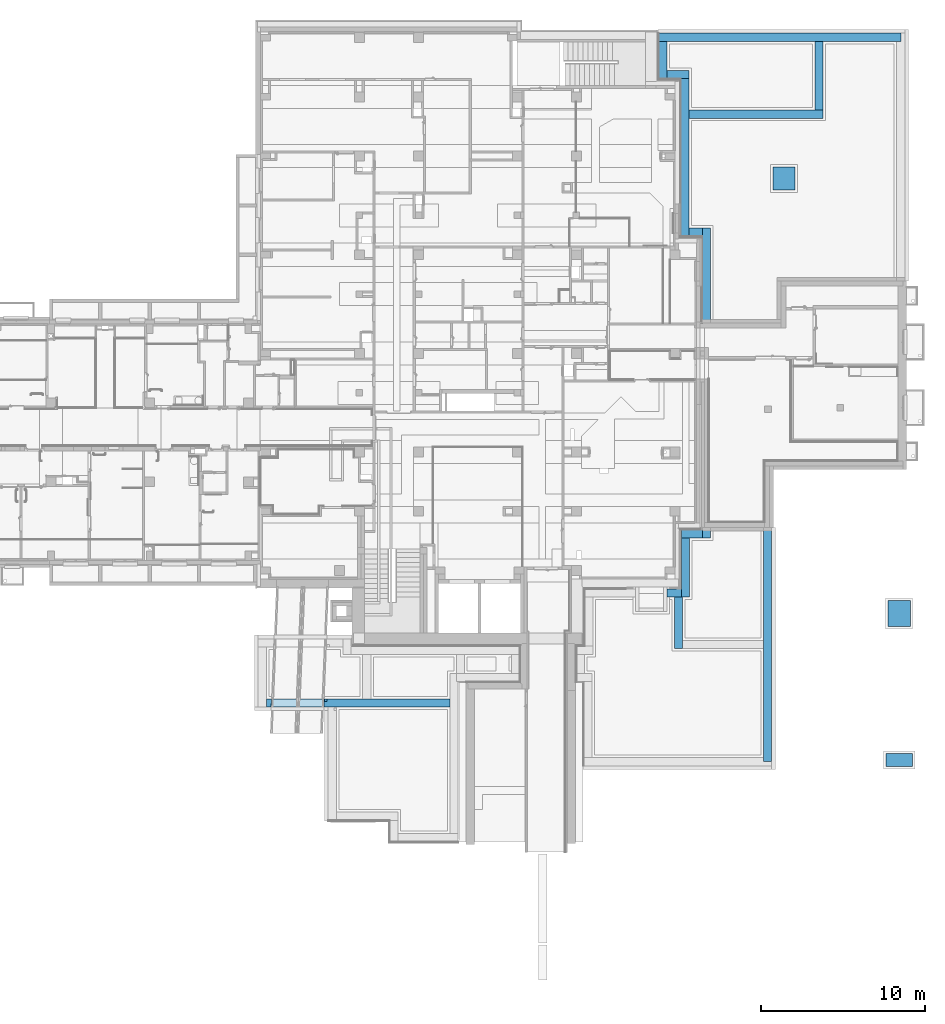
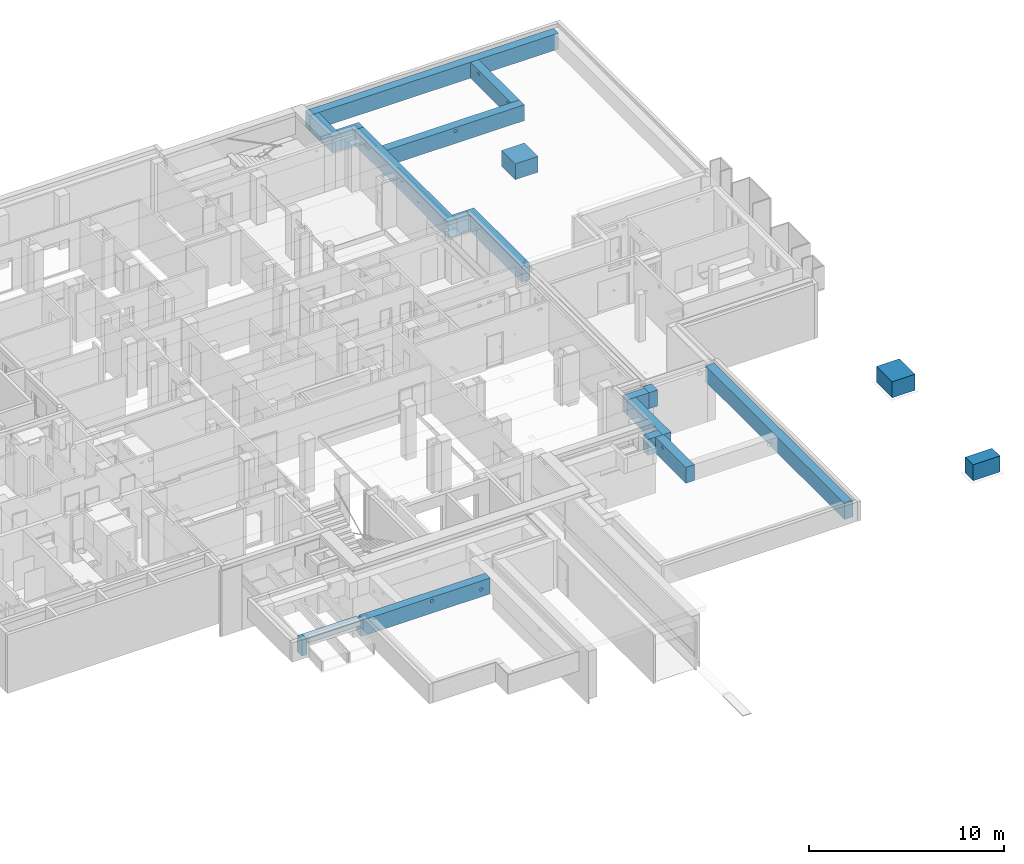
# One storey, part 2 of 84: 20 footings, 7 openings.
"""IFC4 building model written with IfcOpenShell, lengths in metres."""

from ifc_helpers import new_model, entity, si_unit, converted_unit, derived_unit, frame, frame_2d, origin, origin_with_axes, place, context, subcontext, project, spatial, polyline, rectangle, outline, extrude, faceted_brep, material, element, save


model = new_model("IFC4")

# Units and contexts
model_context = context("Model", 3, precision=1e-05, world=origin())
body_context = subcontext(model_context, "Body", "Model", "MODEL_VIEW")
ifc_project = project(units=[si_unit("LENGTHUNIT", "METRE"), si_unit("AREAUNIT", "SQUARE_METRE"), si_unit("VOLUMEUNIT", "CUBIC_METRE"), si_unit("MASSUNIT", "GRAM", prefix="KILO"), converted_unit("PLANEANGLEUNIT", "DEGREE", entity("IfcPlaneAngleMeasure", 0.0174532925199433), si_unit("PLANEANGLEUNIT", "RADIAN"), dimensions=[0, 0, 0, 0, 0, 0, 0]), derived_unit("THERMALTRANSMITTANCEUNIT", [(si_unit("POWERUNIT", "WATT"), 1), (si_unit("THERMODYNAMICTEMPERATUREUNIT", "KELVIN"), -1), (si_unit("LENGTHUNIT", "METRE"), -2)]), derived_unit("VOLUMETRICFLOWRATEUNIT", [(si_unit("LENGTHUNIT", "METRE"), 3), (converted_unit("TIMEUNIT", "hour", entity("IfcTimeMeasure", 3600.0), si_unit("TIMEUNIT", "SECOND"), dimensions=[0, 0, 1, 0, 0, 0, 0]), -1), (si_unit("LENGTHUNIT", "METRE"), -1)])], contexts=[model_context])

# Site, building, storey
site_placement = place(None, origin())
site = spatial("IfcSite", under=ifc_project, at=site_placement, Name="3. ASŘ", CompositionType="ELEMENT")
building_placement = place(site_placement, origin())
building = spatial("IfcBuilding", under=site, at=building_placement, Name="Pavilon C", CompositionType="ELEMENT")
storey_placement = place(building_placement, frame((0.0, 0.0, -3.3)))
storey = spatial("IfcBuildingStorey", under=building, at=storey_placement, Name="Půdorys 1.PP", CompositionType="ELEMENT", Elevation=-3.3)

# Footing
ifc_material_1 = material(Name="ZELEZOBETONOVÁ KCE")
footing_1_placement = place(storey_placement, frame((55.9, 23.15, 1.8)))
element("IfcFooting", 1, at=footing_1_placement, inside=storey, material=ifc_material_1, PredefinedType="PAD_FOOTING", context=body_context, shape_type="SweptSolid", body=[
    extrude(rectangle(XDim=1.4, YDim=1.35, at=frame_2d((-0.675, 0.7), x_axis=(0.0, 1.0))), frame((1.35, 0.0, 0.0), z_axis=(0.0, 0.0, 1.0), x_axis=(1.0, 0.0, 0.0)), (0.0, 0.0, 1.0), 1.0),
])

# Footing, openings
ifc_material_2 = material(Name="ZELEZOBETONOVÁ KCE")
footing_2_placement = place(storey_placement, frame((28.5972563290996, -8.30000000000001, 1.8)))
footing_2 = element("IfcFooting", 2, at=footing_2_placement, inside=storey, material=ifc_material_2, PredefinedType="STRIP_FOOTING", context=body_context, shape_type="Brep", body=[
    faceted_brep([(0.0207837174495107, 0.499999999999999, 0.0), (0.0, 0.0, 0.0), (7.65274367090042, 0.0, 0.0), (7.65274367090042, 0.499999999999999, 0.0), (0.0, 0.0, 1.0), (0.0207837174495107, 0.499999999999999, 1.0), (7.65274367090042, 0.499999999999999, 1.0), (7.65274367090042, 0.0, 1.0)], [[[0, 1, 2, 3]], [[4, 5, 6, 7]], [[1, 0, 5, 4]], [[2, 1, 4, 7]], [[3, 2, 7, 6]], [[0, 3, 6, 5]]], orient=[[False], [False], [False], [False], [False], [False]]),
])
opening_1_placement = place(footing_2_placement, frame((0.178011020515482, 0.499999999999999, 0.7), z_axis=(0.0, -1.0, 0.0), x_axis=(0.0, 0.0, 1.0)))
element("IfcOpeningElement", 3, at=opening_1_placement, cuts=footing_2, Name="Prostup stěnou", ObjectType="Opening", context=body_context, shape_type="SweptSolid", body=[
    extrude(outline(polyline([(0.0, 0.15), (0.3, 0.15), (0.3, 0.0), (0.0, 0.0), (0.0, 0.15)])), origin_with_axes(), (0.0, 0.0, 1.0), 0.15),
])
opening_2_placement = place(footing_2_placement, frame((4.10274367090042, 0.0, 0.68), z_axis=(0.0, 1.0, 0.0), x_axis=(0.0, 0.0, 1.0)))
element("IfcOpeningElement", 4, at=opening_2_placement, cuts=footing_2, Name="RAD", ObjectType="Opening", context=body_context, shape_type="SweptSolid", body=[
    extrude(outline(polyline([(0.1, 0.0), (0.0895471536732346, 0.000547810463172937), (0.0792088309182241, 0.00218523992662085), (0.0690983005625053, 0.00489434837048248), (0.05932633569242, 0.00864545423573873), (0.05, 0.0133974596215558), (0.0412214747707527, 0.0190983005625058), (0.0330869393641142, 0.0256855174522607), (0.0256855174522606, 0.0330869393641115), (0.0190983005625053, 0.0412214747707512), (0.0133974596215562, 0.05), (0.00864545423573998, 0.0593263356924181), (0.00489434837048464, 0.0690983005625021), (0.00218523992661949, 0.0792088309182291), (0.000547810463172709, 0.0895471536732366), (0.0, 0.1), (0.000547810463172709, 0.110452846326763), (0.00218523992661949, 0.120791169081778), (0.00489434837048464, 0.130901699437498), (0.00864545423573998, 0.140673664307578), (0.0133974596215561, 0.15), (0.0190983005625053, 0.158778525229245), (0.0256855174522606, 0.166913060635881), (0.0330869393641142, 0.174314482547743), (0.0412214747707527, 0.180901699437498), (0.05, 0.186602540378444), (0.05932633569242, 0.191354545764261), (0.0690983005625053, 0.195105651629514), (0.0792088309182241, 0.197814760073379), (0.0895471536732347, 0.199452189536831), (0.1, 0.2), (0.110452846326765, 0.199452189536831), (0.120791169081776, 0.197814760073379), (0.130901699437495, 0.195105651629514), (0.14067366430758, 0.191354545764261), (0.15, 0.186602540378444), (0.158778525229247, 0.180901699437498), (0.166913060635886, 0.174314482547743), (0.174314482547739, 0.166913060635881), (0.180901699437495, 0.158778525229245), (0.186602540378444, 0.15), (0.19135454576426, 0.140673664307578), (0.195105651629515, 0.130901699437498), (0.197814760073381, 0.120791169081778), (0.199452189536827, 0.110452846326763), (0.2, 0.1), (0.199452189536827, 0.0895471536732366), (0.197814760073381, 0.0792088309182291), (0.195105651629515, 0.0690983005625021), (0.19135454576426, 0.0593263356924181), (0.186602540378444, 0.05), (0.180901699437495, 0.0412214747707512), (0.174314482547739, 0.0330869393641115), (0.166913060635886, 0.0256855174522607), (0.158778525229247, 0.0190983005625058), (0.15, 0.0133974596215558), (0.14067366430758, 0.00864545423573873), (0.130901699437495, 0.00489434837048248), (0.120791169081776, 0.00218523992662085), (0.110452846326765, 0.000547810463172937), (0.1, 0.0)])), origin_with_axes(), (0.0, 0.0, 1.0), 0.499999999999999),
])
opening_3_placement = place(footing_2_placement, frame((7.02847960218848, 0.0, 0.37), z_axis=(0.0, 1.0, 0.0), x_axis=(0.0, 0.0, 1.0)))
element("IfcOpeningElement", 5, at=opening_3_placement, cuts=footing_2, Name="ZTI", ObjectType="Opening", context=body_context, shape_type="SweptSolid", body=[
    extrude(outline(polyline([(0.1, 0.0), (0.0895471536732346, 0.000547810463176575), (0.0792088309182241, 0.00218523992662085), (0.0690983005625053, 0.00489434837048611), (0.0593263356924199, 0.00864545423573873), (0.05, 0.0133974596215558), (0.0412214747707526, 0.0190983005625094), (0.0330869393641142, 0.025685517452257), (0.0256855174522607, 0.0330869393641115), (0.0190983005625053, 0.0412214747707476), (0.0133974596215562, 0.05), (0.00864545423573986, 0.0593263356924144), (0.00489434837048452, 0.0690983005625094), (0.00218523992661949, 0.0792088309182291), (0.000547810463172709, 0.0895471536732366), (0.0, 0.1), (0.000547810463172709, 0.110452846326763), (0.00218523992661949, 0.120791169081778), (0.00489434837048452, 0.130901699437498), (0.00864545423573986, 0.140673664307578), (0.0133974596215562, 0.15), (0.0190983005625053, 0.158778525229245), (0.0256855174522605, 0.166913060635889), (0.0330869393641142, 0.174314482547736), (0.0412214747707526, 0.180901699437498), (0.05, 0.186602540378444), (0.0593263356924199, 0.191354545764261), (0.0690983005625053, 0.195105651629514), (0.0792088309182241, 0.197814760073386), (0.0895471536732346, 0.199452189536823), (0.1, 0.2), (0.110452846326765, 0.199452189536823), (0.120791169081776, 0.197814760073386), (0.130901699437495, 0.195105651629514), (0.14067366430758, 0.191354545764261), (0.15, 0.186602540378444), (0.158778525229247, 0.180901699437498), (0.166913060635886, 0.174314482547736), (0.174314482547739, 0.166913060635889), (0.180901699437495, 0.158778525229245), (0.186602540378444, 0.15), (0.19135454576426, 0.140673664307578), (0.195105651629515, 0.130901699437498), (0.19781476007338, 0.120791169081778), (0.199452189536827, 0.110452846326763), (0.2, 0.1), (0.199452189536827, 0.0895471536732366), (0.19781476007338, 0.0792088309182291), (0.195105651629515, 0.0690983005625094), (0.19135454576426, 0.0593263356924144), (0.186602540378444, 0.05), (0.180901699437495, 0.0412214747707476), (0.174314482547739, 0.0330869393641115), (0.166913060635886, 0.025685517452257), (0.158778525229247, 0.0190983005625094), (0.15, 0.0133974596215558), (0.14067366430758, 0.00864545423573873), (0.130901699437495, 0.00489434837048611), (0.120791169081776, 0.00218523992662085), (0.110452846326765, 0.000547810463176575), (0.1, 0.0)])), origin_with_axes(), (0.0, 0.0, 1.0), 0.499999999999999),
])

# Footings
ifc_material_3 = material(Name="ZELEZOBETONOVÁ KCE")
footing_3_placement = place(storey_placement, frame((25.3845188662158, -8.30000000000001, 2.5)))
element("IfcFooting", 6, at=footing_3_placement, inside=storey, material=ifc_material_3, PredefinedType="STRIP_FOOTING", context=body_context, shape_type="Brep", body=[
    faceted_brep([(3.21273746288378, 0.0, 0.0), (3.23352118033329, 0.499999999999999, 0.0), (0.0207837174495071, 0.499999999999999, 0.0), (0.0, 0.0, 0.0), (3.23352118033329, 0.499999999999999, 0.3), (3.21273746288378, 0.0, 0.3), (0.0, 0.0, 0.3), (0.0207837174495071, 0.499999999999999, 0.3)], [[[0, 1, 2, 3]], [[4, 5, 6, 7]], [[1, 0, 5, 4]], [[2, 1, 4, 7]], [[3, 2, 7, 6]], [[0, 3, 6, 5]]], orient=[[False], [False], [False], [False], [False], [False]]),
])
ifc_material_4 = material(Name="ZELEZOBETONOVÁ KCE")
footing_4_placement = place(storey_placement, frame((50.825, -1.62499999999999, 1.8), z_axis=(0.0, 0.0, 1.0), x_axis=(0.0, 1.0, 0.0)))
element("IfcFooting", 7, at=footing_4_placement, inside=storey, material=ifc_material_4, PredefinedType="STRIP_FOOTING", context=body_context, shape_type="SweptSolid", body=[
    extrude(rectangle(XDim=0.5, YDim=1.0, at=frame_2d((0.25, 0.5), x_axis=(1.0, 0.0))), frame((0.0, 0.0, 0.0), z_axis=(1.0, 0.0, 0.0), x_axis=(0.0, 1.0, 0.0)), (0.0, 0.0, 1.0), 3.59999999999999),
])

# Footing, opening
ifc_material_5 = material(Name="ZELEZOBETONOVÁ KCE")
footing_5_placement = place(storey_placement, frame((50.4, -4.75, 1.8), z_axis=(0.0, 0.0, 1.0), x_axis=(0.0, 1.0, 0.0)))
footing_5 = element("IfcFooting", 8, at=footing_5_placement, inside=storey, material=ifc_material_5, PredefinedType="STRIP_FOOTING", context=body_context, shape_type="SweptSolid", body=[
    extrude(rectangle(XDim=0.5, YDim=1.0, at=frame_2d((0.25, 0.5), x_axis=(1.0, 0.0))), frame((0.0, 0.0, 0.0), z_axis=(1.0, 0.0, 0.0), x_axis=(0.0, 1.0, 0.0)), (0.0, 0.0, 1.0), 3.12500000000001),
])
opening_4_placement = place(footing_5_placement, frame((2.31499999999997, 0.0, 0.680000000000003), z_axis=(0.0, 1.0, 0.0), x_axis=(0.0, 0.0, 1.0)))
element("IfcOpeningElement", 9, at=opening_4_placement, cuts=footing_5, Name="RAD", ObjectType="Opening", context=body_context, shape_type="SweptSolid", body=[
    extrude(outline(polyline([(0.0999999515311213, 0.0), (0.0895471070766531, 0.000547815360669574), (0.0792087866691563, 0.00218524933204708), (0.0690982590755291, 0.00489436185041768), (0.0593262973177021, 0.00864547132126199), (0.049999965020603, 0.013397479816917), (0.0412214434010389, 0.0190983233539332), (0.033086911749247, 0.0256855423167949), (0.0256854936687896, 0.033086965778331), (0.0190982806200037, 0.0412215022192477), (0.0133974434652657, 0.0500000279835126), (0.00864544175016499, 0.0593263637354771), (0.00489433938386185, 0.0690983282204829), (0.00218523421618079, 0.0792088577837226), (0.000547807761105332, 0.0895471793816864), (0.0, 0.100000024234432), (0.000547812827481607, 0.11045286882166), (0.00218524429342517, 0.120791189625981), (0.00489435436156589, 0.130901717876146), (0.00864546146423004, 0.140673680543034), (0.0133974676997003, 0.150000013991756), (0.0190983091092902, 0.158778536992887), (0.0256855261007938, 0.166913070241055), (0.0330869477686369, 0.174314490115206), (0.0412214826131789, 0.180901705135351), (0.0500000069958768, 0.186602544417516), (0.0593263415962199, 0.191354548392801), (0.0690983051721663, 0.195105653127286), (0.0792088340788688, 0.197814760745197), (0.0895471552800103, 0.199452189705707), (0.099999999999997, 0.2), (0.110452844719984, 0.199452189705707), (0.120791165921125, 0.197814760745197), (0.130901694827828, 0.195105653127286), (0.140673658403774, 0.191354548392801), (0.149999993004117, 0.186602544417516), (0.158778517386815, 0.180901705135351), (0.166913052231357, 0.174314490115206), (0.1743144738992, 0.166913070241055), (0.180901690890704, 0.158778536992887), (0.186602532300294, 0.150000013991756), (0.191354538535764, 0.140673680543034), (0.195105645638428, 0.130901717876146), (0.197814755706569, 0.120791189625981), (0.199452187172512, 0.11045286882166), (0.199999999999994, 0.100000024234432), (0.199452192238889, 0.0895471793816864), (0.197814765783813, 0.0792088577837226), (0.195105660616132, 0.0690983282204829), (0.191354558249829, 0.0593263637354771), (0.186602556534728, 0.0500000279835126), (0.18090171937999, 0.0412215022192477), (0.174314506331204, 0.033086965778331), (0.166913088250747, 0.0256855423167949), (0.158778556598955, 0.0190983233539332), (0.150000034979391, 0.013397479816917), (0.140673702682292, 0.00864547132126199), (0.130901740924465, 0.00489436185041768), (0.120791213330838, 0.00218524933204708), (0.110452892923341, 0.000547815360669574), (0.0999999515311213, 0.0)])), origin_with_axes(), (0.0, 0.0, 1.0), 0.5),
])

# Footings
ifc_material_6 = material(Name="ZELEZOBETONOVÁ KCE")
footing_6_placement = place(storey_placement, frame((50.325, -1.12499999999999, 1.8), z_axis=(0.0, 0.0, 1.0), x_axis=(-1.0, 0.0, 0.0)))
element("IfcFooting", 10, at=footing_6_placement, inside=storey, material=ifc_material_6, PredefinedType="STRIP_FOOTING", context=body_context, shape_type="SweptSolid", body=[
    extrude(rectangle(XDim=0.5, YDim=1.0, at=frame_2d((0.25, 0.5), x_axis=(1.0, 0.0))), frame((0.0, 0.0, 0.0), z_axis=(1.0, 0.0, 0.0), x_axis=(0.0, 1.0, 0.0)), (0.0, 0.0, 1.0), 0.875),
])
ifc_material_7 = material(Name="ZELEZOBETONOVÁ KCE")
footing_7_placement = place(storey_placement, frame((48.955, 32.175, 1.8)))
element("IfcFooting", 11, at=footing_7_placement, inside=storey, material=ifc_material_7, PredefinedType="STRIP_FOOTING", context=body_context, shape_type="SweptSolid", body=[
    extrude(rectangle(XDim=0.5, YDim=1.0, at=frame_2d((0.25, 0.5), x_axis=(1.0, 0.0))), frame((0.0, 0.0, 0.0), z_axis=(1.0, 0.0, 0.0), x_axis=(0.0, 1.0, 0.0)), (0.0, 0.0, 1.0), 14.7184999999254),
])

# Footing, openings
ifc_material_8 = material(Name="ZELEZOBETONOVÁ KCE")
footing_8_placement = place(storey_placement, frame((58.45, 32.175, 1.8), z_axis=(0.0, 0.0, 1.0), x_axis=(0.0, -1.0, 0.0)))
footing_8 = element("IfcFooting", 12, at=footing_8_placement, inside=storey, material=ifc_material_8, PredefinedType="STRIP_FOOTING", context=body_context, shape_type="SweptSolid", body=[
    extrude(rectangle(XDim=0.5, YDim=1.0, at=frame_2d((0.25, 0.5), x_axis=(1.0, 0.0))), frame((0.0, 0.0, 0.0), z_axis=(1.0, 0.0, 0.0), x_axis=(0.0, 1.0, 0.0)), (0.0, 0.0, 1.0), 4.175),
])
opening_5_placement = place(footing_8_placement, frame((3.925, 0.5, 0.680000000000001), z_axis=(0.0, -1.0, 0.0), x_axis=(0.0, 0.0, 1.0)))
element("IfcOpeningElement", 13, at=opening_5_placement, cuts=footing_8, Name="RAD", ObjectType="Opening", context=body_context, shape_type="SweptSolid", body=[
    extrude(outline(polyline([(0.0999999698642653, 0.0), (0.0895471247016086, 0.00054781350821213), (0.0792088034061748, 0.00218524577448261), (0.0690982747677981, 0.00489435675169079), (0.0593263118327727, 0.00864546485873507), (0.049999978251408, 0.0133974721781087), (0.0412214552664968, 0.0190983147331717), (0.0330869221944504, 0.0256855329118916), (0.0256855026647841, 0.0330869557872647), (0.0190982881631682, 0.0412214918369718), (0.0133974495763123, 0.0500000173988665), (0.00864544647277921, 0.0593263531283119), (0.00489434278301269, 0.0690983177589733), (0.0021852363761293, 0.0792088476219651), (0.000547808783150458, 0.0895471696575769), (0.0, 0.100000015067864), (0.000547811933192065, 0.110452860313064), (0.00218524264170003, 0.120791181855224), (0.00489435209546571, 0.13090171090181), (0.00864545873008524, 0.140673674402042), (0.0133974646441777, 0.150000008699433), (0.0190983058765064, 0.15877853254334), (0.0256855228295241, 0.16691306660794), (0.0330869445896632, 0.174314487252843), (0.0412214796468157, 0.180901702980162), (0.0500000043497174, 0.186602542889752), (0.0593263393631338, 0.191354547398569), (0.0690983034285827, 0.19510565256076), (0.0792088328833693, 0.197814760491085), (0.089547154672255, 0.19945218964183), (0.0999999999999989, 0.2), (0.110452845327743, 0.19945218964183), (0.120791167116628, 0.197814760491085), (0.130901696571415, 0.19510565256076), (0.140673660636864, 0.191354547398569), (0.14999999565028, 0.186602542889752), (0.158778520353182, 0.180901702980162), (0.166913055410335, 0.174314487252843), (0.174314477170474, 0.16691306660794), (0.180901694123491, 0.15877853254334), (0.18660253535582, 0.150000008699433), (0.191354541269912, 0.140673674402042), (0.195105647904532, 0.13090171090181), (0.197814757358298, 0.120791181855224), (0.199452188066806, 0.110452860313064), (0.199999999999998, 0.100000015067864), (0.199452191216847, 0.0895471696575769), (0.197814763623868, 0.0792088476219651), (0.195105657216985, 0.0690983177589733), (0.191354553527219, 0.0593263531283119), (0.186602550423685, 0.0500000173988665), (0.18090171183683, 0.0412214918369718), (0.174314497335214, 0.0330869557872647), (0.166913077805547, 0.0256855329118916), (0.158778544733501, 0.0190983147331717), (0.15000002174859, 0.0133974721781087), (0.140673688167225, 0.00864546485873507), (0.1309017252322, 0.00489435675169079), (0.120791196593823, 0.00218524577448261), (0.110452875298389, 0.00054781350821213), (0.0999999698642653, 0.0)])), origin_with_axes(), (0.0, 0.0, 1.0), 0.5),
])
opening_6_placement = place(footing_8_placement, frame((0.925, 0.5, 0.680000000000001), z_axis=(0.0, -1.0, 0.0), x_axis=(0.0, 0.0, 1.0)))
element("IfcOpeningElement", 14, at=opening_6_placement, cuts=footing_8, Name="RAD", ObjectType="Opening", context=body_context, shape_type="SweptSolid", body=[
    extrude(outline(polyline([(0.0999999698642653, 0.0), (0.0895471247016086, 0.000547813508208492), (0.0792088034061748, 0.00218524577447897), (0.0690982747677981, 0.00489435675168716), (0.0593263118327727, 0.00864546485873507), (0.049999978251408, 0.0133974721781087), (0.0412214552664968, 0.0190983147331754), (0.0330869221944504, 0.0256855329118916), (0.0256855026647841, 0.0330869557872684), (0.0190982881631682, 0.0412214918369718), (0.0133974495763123, 0.0500000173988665), (0.00864544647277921, 0.0593263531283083), (0.00489434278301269, 0.0690983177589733), (0.0021852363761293, 0.0792088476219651), (0.000547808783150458, 0.0895471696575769), (0.0, 0.100000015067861), (0.000547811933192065, 0.11045286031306), (0.00218524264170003, 0.120791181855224), (0.00489435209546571, 0.130901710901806), (0.00864545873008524, 0.140673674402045), (0.0133974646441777, 0.150000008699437), (0.0190983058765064, 0.158778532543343), (0.0256855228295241, 0.166913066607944), (0.0330869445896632, 0.174314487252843), (0.0412214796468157, 0.180901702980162), (0.0500000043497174, 0.186602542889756), (0.0593263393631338, 0.191354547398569), (0.0690983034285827, 0.19510565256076), (0.0792088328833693, 0.197814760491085), (0.089547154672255, 0.19945218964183), (0.0999999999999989, 0.2), (0.110452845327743, 0.19945218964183), (0.120791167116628, 0.197814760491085), (0.130901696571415, 0.19510565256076), (0.140673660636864, 0.191354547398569), (0.14999999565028, 0.186602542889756), (0.158778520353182, 0.180901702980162), (0.166913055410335, 0.174314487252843), (0.174314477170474, 0.166913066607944), (0.180901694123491, 0.158778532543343), (0.18660253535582, 0.150000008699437), (0.191354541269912, 0.140673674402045), (0.195105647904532, 0.130901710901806), (0.197814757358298, 0.120791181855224), (0.199452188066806, 0.11045286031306), (0.199999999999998, 0.100000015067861), (0.199452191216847, 0.0895471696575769), (0.197814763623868, 0.0792088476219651), (0.195105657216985, 0.0690983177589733), (0.191354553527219, 0.0593263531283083), (0.186602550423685, 0.0500000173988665), (0.18090171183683, 0.0412214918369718), (0.174314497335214, 0.0330869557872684), (0.166913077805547, 0.0256855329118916), (0.158778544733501, 0.0190983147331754), (0.15000002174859, 0.0133974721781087), (0.140673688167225, 0.00864546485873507), (0.1309017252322, 0.00489435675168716), (0.120791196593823, 0.00218524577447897), (0.110452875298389, 0.000547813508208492), (0.0999999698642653, 0.0)])), origin_with_axes(), (0.0, 0.0, 1.0), 0.5),
])

# Footings
ifc_material_9 = material(Name="ZELEZOBETONOVÁ KCE")
footing_9_placement = place(storey_placement, frame((49.455, 29.905, 1.8), z_axis=(0.0, 0.0, 1.0), x_axis=(0.0, 1.0, 0.0)))
element("IfcFooting", 15, at=footing_9_placement, inside=storey, material=ifc_material_9, PredefinedType="STRIP_FOOTING", context=body_context, shape_type="SweptSolid", body=[
    extrude(rectangle(XDim=0.5, YDim=1.0, at=frame_2d((0.25, 0.5), x_axis=(1.0, 0.0))), frame((0.0, 0.0, 0.0), z_axis=(1.0, 0.0, 0.0), x_axis=(0.0, 1.0, 0.0)), (0.0, 0.0, 1.0), 2.27),
])
ifc_material_10 = material(Name="ZELEZOBETONOVÁ KCE")
footing_10_placement = place(storey_placement, frame((50.325, 1.975, 1.8)))
element("IfcFooting", 16, at=footing_10_placement, inside=storey, material=ifc_material_10, PredefinedType="STRIP_FOOTING", context=body_context, shape_type="SweptSolid", body=[
    extrude(rectangle(XDim=0.5, YDim=1.0, at=frame_2d((0.25, 0.5), x_axis=(1.0, 0.0))), frame((0.0, 0.0, 0.0), z_axis=(1.0, 0.0, 0.0), x_axis=(0.0, 1.0, 0.0)), (0.0, 0.0, 1.0), 1.28),
])

# Footing, opening
ifc_material_11 = material(Name="ZELEZOBETONOVÁ KCE")
footing_11_placement = place(storey_placement, frame((58.95, 28.0, 1.8), z_axis=(0.0, 0.0, 1.0), x_axis=(-1.0, 0.0, 0.0)))
footing_11 = element("IfcFooting", 17, at=footing_11_placement, inside=storey, material=ifc_material_11, PredefinedType="STRIP_FOOTING", context=body_context, shape_type="SweptSolid", body=[
    extrude(rectangle(XDim=0.5, YDim=1.0, at=frame_2d((0.25, 0.5), x_axis=(1.0, 0.0))), frame((0.0, 0.0, 0.0), z_axis=(1.0, 0.0, 0.0), x_axis=(0.0, 1.0, 0.0)), (0.0, 0.0, 1.0), 8.145),
])
opening_7_placement = place(footing_11_placement, frame((4.175, 0.5, 0.68), z_axis=(0.0, -1.0, 0.0), x_axis=(0.0, 0.0, 1.0)))
element("IfcOpeningElement", 18, at=opening_7_placement, cuts=footing_11, Name="RAD", ObjectType="Opening", context=body_context, shape_type="SweptSolid", body=[
    extrude(outline(polyline([(0.1, 0.0), (0.0895471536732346, 0.000547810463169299), (0.0792088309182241, 0.00218523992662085), (0.0690983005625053, 0.00489434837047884), (0.05932633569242, 0.00864545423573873), (0.05, 0.0133974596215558), (0.0412214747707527, 0.0190983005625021), (0.0330869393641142, 0.0256855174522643), (0.0256855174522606, 0.0330869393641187), (0.0190983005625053, 0.0412214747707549), (0.0133974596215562, 0.05), (0.00864545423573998, 0.0593263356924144), (0.00489434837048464, 0.0690983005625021), (0.00218523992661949, 0.0792088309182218), (0.000547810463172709, 0.0895471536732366), (0.0, 0.1), (0.000547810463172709, 0.110452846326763), (0.00218523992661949, 0.120791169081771), (0.00489434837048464, 0.130901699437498), (0.00864545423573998, 0.140673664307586), (0.0133974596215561, 0.15), (0.0190983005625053, 0.158778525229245), (0.0256855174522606, 0.166913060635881), (0.0330869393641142, 0.174314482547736), (0.0412214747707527, 0.180901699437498), (0.05, 0.186602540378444), (0.05932633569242, 0.191354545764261), (0.0690983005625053, 0.195105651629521), (0.0792088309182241, 0.197814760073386), (0.0895471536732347, 0.199452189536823), (0.1, 0.2), (0.110452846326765, 0.199452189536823), (0.120791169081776, 0.197814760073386), (0.130901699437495, 0.195105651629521), (0.14067366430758, 0.191354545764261), (0.15, 0.186602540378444), (0.158778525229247, 0.180901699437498), (0.166913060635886, 0.174314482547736), (0.174314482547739, 0.166913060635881), (0.180901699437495, 0.158778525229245), (0.186602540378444, 0.15), (0.19135454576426, 0.140673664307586), (0.195105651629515, 0.130901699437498), (0.197814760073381, 0.120791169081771), (0.199452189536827, 0.110452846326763), (0.2, 0.1), (0.199452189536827, 0.0895471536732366), (0.197814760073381, 0.0792088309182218), (0.195105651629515, 0.0690983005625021), (0.19135454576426, 0.0593263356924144), (0.186602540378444, 0.05), (0.180901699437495, 0.0412214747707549), (0.174314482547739, 0.0330869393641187), (0.166913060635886, 0.0256855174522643), (0.158778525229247, 0.0190983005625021), (0.15, 0.0133974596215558), (0.14067366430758, 0.00864545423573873), (0.130901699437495, 0.00489434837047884), (0.120791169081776, 0.00218523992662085), (0.110452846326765, 0.000547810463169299), (0.1, 0.0)])), origin_with_axes(), (0.0, 0.0, 1.0), 0.5),
])

# Footings
ifc_material_12 = material(Name="ZELEZOBETONOVÁ KCE")
footing_12_placement = place(storey_placement, frame((51.605, 20.825, 1.8), z_axis=(0.0, 0.0, 1.0), x_axis=(-1.0, 0.0, 0.0)))
element("IfcFooting", 19, at=footing_12_placement, inside=storey, material=ifc_material_12, PredefinedType="STRIP_FOOTING", context=body_context, shape_type="SweptSolid", body=[
    extrude(rectangle(XDim=0.5, YDim=1.0, at=frame_2d((0.25, 0.5), x_axis=(1.0, 0.0))), frame((0.0, 0.0, 0.0), z_axis=(1.0, 0.0, 0.0), x_axis=(0.0, 1.0, 0.0)), (0.0, 0.0, 1.0), 0.8),
])
ifc_material_13 = material(Name="ZELEZOBETONOVÁ KCE")
footing_13_placement = place(storey_placement, frame((50.805, 30.405, 1.8), z_axis=(0.0, 0.0, 1.0), x_axis=(-1.0, 0.0, 0.0)))
element("IfcFooting", 20, at=footing_13_placement, inside=storey, material=ifc_material_13, PredefinedType="STRIP_FOOTING", context=body_context, shape_type="SweptSolid", body=[
    extrude(rectangle(XDim=0.5, YDim=1.0, at=frame_2d((0.25, 0.5), x_axis=(1.0, 0.0))), frame((0.0, 0.0, 0.0), z_axis=(1.0, 0.0, 0.0), x_axis=(0.0, 1.0, 0.0)), (0.0, 0.0, 1.0), 1.35),
])
ifc_material_14 = material(Name="ZELEZOBETONOVÁ KCE")
footing_14_placement = place(storey_placement, frame((50.805, 20.325, 1.8), z_axis=(0.0, 0.0, 1.0), x_axis=(0.0, 1.0, 0.0)))
element("IfcFooting", 21, at=footing_14_placement, inside=storey, material=ifc_material_14, PredefinedType="STRIP_FOOTING", context=body_context, shape_type="SweptSolid", body=[
    extrude(rectangle(XDim=0.5, YDim=1.0, at=frame_2d((0.25, 0.5), x_axis=(1.0, 0.0))), frame((0.0, 0.0, 0.0), z_axis=(1.0, 0.0, 0.0), x_axis=(0.0, 1.0, 0.0)), (0.0, 0.0, 1.0), 9.58),
])
ifc_material_15 = material(Name="ZELEZOBETONOVÁ KCE")
footing_15_placement = place(storey_placement, frame((52.105, 15.05, 1.8), z_axis=(0.0, 0.0, 1.0), x_axis=(0.0, 1.0, 0.0)))
element("IfcFooting", 22, at=footing_15_placement, inside=storey, material=ifc_material_15, PredefinedType="STRIP_FOOTING", context=body_context, shape_type="SweptSolid", body=[
    extrude(rectangle(XDim=0.5, YDim=1.0, at=frame_2d((0.25, 0.5), x_axis=(1.0, 0.0))), frame((0.0, 0.0, 0.0), z_axis=(1.0, 0.0, 0.0), x_axis=(0.0, 1.0, 0.0)), (0.0, 0.0, 1.0), 5.77499999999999),
])
ifc_material_16 = material(Name="ZELEZOBETONOVÁ KCE")
footing_16_placement = place(storey_placement, frame((55.3250000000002, 2.63, 1.8), z_axis=(0.0, 0.0, 1.0), x_axis=(0.0, -1.0, 0.0)))
element("IfcFooting", 23, at=footing_16_placement, inside=storey, material=ifc_material_16, PredefinedType="STRIP_FOOTING", context=body_context, shape_type="SweptSolid", body=[
    extrude(rectangle(XDim=0.5, YDim=1.0, at=frame_2d((0.25, 0.5), x_axis=(1.0, 0.0))), frame((0.0, 0.0, 0.0), z_axis=(1.0, 0.0, 0.0), x_axis=(0.0, 1.0, 0.0)), (0.0, 0.0, 1.0), 14.255),
])
ifc_material_17 = material(Name="ZELEZOBETONOVÁ KCE")
footing_17_placement = place(storey_placement, frame((52.105, 1.975, 1.8), z_axis=(0.0, 0.0, 1.0), x_axis=(0.0, 1.0, 0.0)))
element("IfcFooting", 24, at=footing_17_placement, inside=storey, material=ifc_material_17, PredefinedType="STRIP_FOOTING", context=body_context, shape_type="SweptSolid", body=[
    extrude(rectangle(XDim=0.5, YDim=1.0, at=frame_2d((0.25, 0.5), x_axis=(1.0, 0.0))), frame((0.0, 0.0, 0.0), z_axis=(1.0, 0.0, 0.0), x_axis=(0.0, 1.0, 0.0)), (0.0, 0.0, 1.0), 0.655000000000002),
])
ifc_material_18 = material(Name="ZELEZOBETONOVÁ KCE")
footing_18_placement = place(storey_placement, frame((25.1, -8.30000000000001, 1.8)))
element("IfcFooting", 25, at=footing_18_placement, inside=storey, material=ifc_material_18, PredefinedType="STRIP_FOOTING", context=body_context, shape_type="Brep", body=[
    faceted_brep([(3.63797880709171e-15, 0.500000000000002, 0.0), (0.0, 1.81898940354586e-15, 0.0), (0.284518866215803, 0.0, 0.0), (0.305302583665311, 0.5, 0.0), (0.0, 1.81898940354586e-15, 1.0), (3.63797880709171e-15, 0.500000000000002, 1.0), (0.305302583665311, 0.5, 1.0), (0.284518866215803, 0.0, 1.0)], [[[0, 1, 2, 3]], [[4, 5, 6, 7]], [[1, 0, 5, 4]], [[2, 1, 4, 7]], [[3, 2, 7, 6]], [[0, 3, 6, 5]]], orient=[[False], [False], [False], [False], [False], [False]]),
])
ifc_material_19 = material(Name="ZELEZOBETONOVÁ KCE")
footing_19_placement = place(storey_placement, frame((62.9, -3.41000000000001, 1.8)))
element("IfcFooting", 26, at=footing_19_placement, inside=storey, material=ifc_material_19, PredefinedType="PAD_FOOTING", context=body_context, shape_type="SweptSolid", body=[
    extrude(rectangle(XDim=1.60000000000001, YDim=1.35, at=frame_2d((-0.675, 0.800000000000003), x_axis=(0.0, 1.0))), frame((1.35, 0.0, 0.0), z_axis=(0.0, 0.0, 1.0), x_axis=(1.0, 0.0, 0.0)), (0.0, 0.0, 1.0), 1.0),
])
ifc_material_20 = material(Name="ZELEZOBETONOVÁ KCE")
footing_20_placement = place(storey_placement, frame((62.775, -11.925, 1.8)))
element("IfcFooting", 27, at=footing_20_placement, inside=storey, material=ifc_material_20, PredefinedType="PAD_FOOTING", context=body_context, shape_type="SweptSolid", body=[
    extrude(rectangle(XDim=0.800000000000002, YDim=1.6, at=frame_2d((-0.8, 0.400000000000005), x_axis=(0.0, 1.0))), frame((1.6, 0.0, 0.0), z_axis=(0.0, 0.0, 1.0), x_axis=(1.0, 0.0, 0.0)), (0.0, 0.0, 1.0), 1.0),
])

save(model, "model.ifc")
